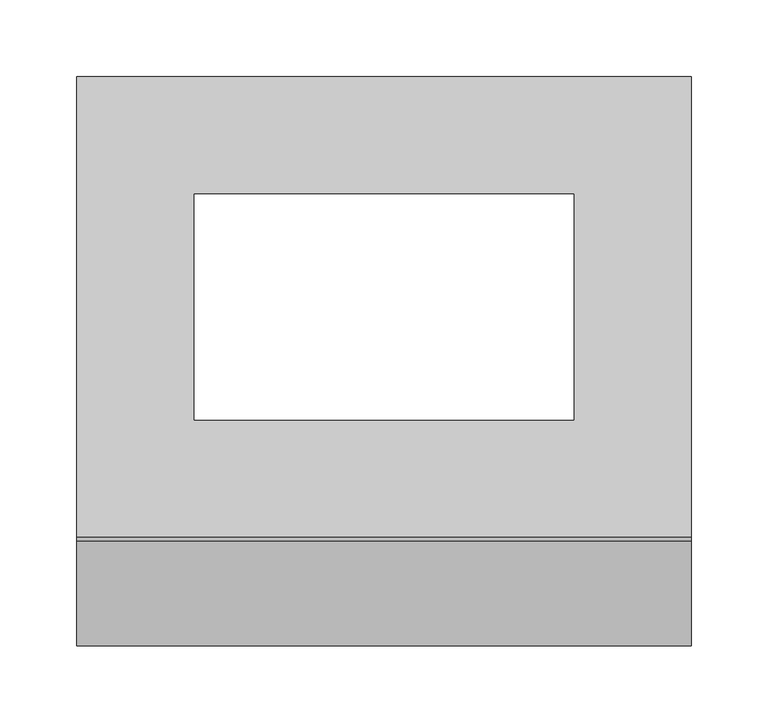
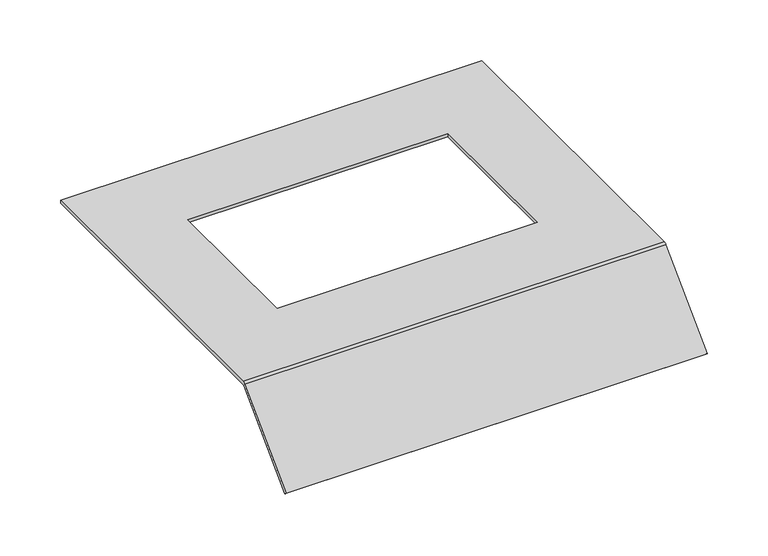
"""IFC4 building model written with IfcOpenShell, lengths in millimetres: proxy geometry, Electrical_Installation_Hager_Covers-With-Installation-Opening-E04 : Electrical_Installation_Hager_Covers-With-Installation-Opening-E04."""

import ifcopenshell
import ifcopenshell.guid

model = None  # the IFC model being written
_history = None  # IfcOwnerHistory: only IFC2X3 demands one
_inside = {}  # id of a spatial element -> (the spatial element, [elements in it])
_under = {}  # id of a project, library or spatial element -> (it, [spatial elements below it])
_declared = {}  # id of a project -> (the project, [libraries it declares])
_typed = {}  # id of a type object -> (the type object, [elements of that type])
_made_of = {}  # id of a material, layer set ... -> (it, [elements and type objects made of it])


def new_model(schema):
    """Start an empty IFC model of exactly this schema.

    Asked for "IFC4X3", IfcOpenShell would pick the latest addendum, in which some entities
    have other attributes; the version numbers below select the first issue.
    IFC2X3 requires an IfcOwnerHistory on every rooted entity: one is made here for all.
    """
    global model, _history
    if schema == "IFC4X3":
        model = ifcopenshell.file(schema_version=(4, 3, 0, 0))
    else:
        model = ifcopenshell.file(schema=schema)
    _inside.clear()
    _under.clear()
    _declared.clear()
    _typed.clear()
    _made_of.clear()
    _history = None
    if model.schema == "IFC2X3":
        org = make("IfcOrganization", Name="unknown")
        user = make(
            "IfcPersonAndOrganization",
            ThePerson=make("IfcPerson", FamilyName="unknown"),
            TheOrganization=org,
        )
        app = make(
            "IfcApplication",
            ApplicationDeveloper=org,
            Version="unknown",
            ApplicationFullName="unknown",
            ApplicationIdentifier="unknown",
        )
        _history = make(
            "IfcOwnerHistory",
            OwningUser=user,
            OwningApplication=app,
            ChangeAction="ADDED",
            CreationDate=0,
        )
    return model


def make(cls, **values):
    """One entity of the class cls with the attributes given. An attribute that is None is left unset."""
    return model.create_entity(
        cls, **{name: value for name, value in values.items() if value is not None}
    )


def rooted(cls, **values):
    """An entity with a GlobalId (a new one), such as an element, a storey or a relation."""
    return make(cls, GlobalId=ifcopenshell.guid.new(), OwnerHistory=_history, **values)


def si_unit(unit_type, name, prefix=None):
    """IfcSIUnit, for example si_unit("LENGTHUNIT", "METRE", prefix="MILLI")."""
    return make("IfcSIUnit", UnitType=unit_type, Prefix=prefix, Name=name)


def assignment(units):
    """IfcUnitAssignment: the units of a project."""
    return None if units is None else make("IfcUnitAssignment", Units=units)


def point(xyz):
    """IfcCartesianPoint."""
    return None if xyz is None else make("IfcCartesianPoint", Coordinates=xyz)


def direction(xyz):
    """IfcDirection."""
    return None if xyz is None else make("IfcDirection", DirectionRatios=xyz)


def frame(location, z_axis=None, x_axis=None):
    """IfcAxis2Placement3D, a coordinate frame: its origin and axes. An axis left out is left unset."""
    return make(
        "IfcAxis2Placement3D",
        Location=point(location),
        Axis=direction(z_axis),
        RefDirection=direction(x_axis),
    )


def origin():
    """The frame at (0, 0, 0) with its axes left unset."""
    return frame((0.0, 0.0, 0.0))


def place(relative_to, where):
    """IfcLocalPlacement: puts the frame where relative to a parent placement (None: the world)."""
    return make(
        "IfcLocalPlacement", PlacementRelTo=relative_to, RelativePlacement=where
    )


def context(
    kind, dimensions, precision=None, world=None, true_north=None, identifier=None
):
    """IfcGeometricRepresentationContext, for example the 3D "Model" context."""
    return make(
        "IfcGeometricRepresentationContext",
        ContextIdentifier=identifier,
        ContextType=kind,
        CoordinateSpaceDimension=dimensions,
        Precision=precision,
        WorldCoordinateSystem=world,
        TrueNorth=true_north,
    )


def project(units=None, contexts=None):
    """IfcProject with its units and contexts."""
    return rooted(
        "IfcProject",
        Name="project",
        RepresentationContexts=contexts,
        UnitsInContext=assignment(units),
    )


def spatial(cls, under=None, at=None, **own):
    """A site, building, storey or space (cls), placed at a placement, below another one or the project."""
    s = rooted(cls, ObjectPlacement=at, **own)
    if under is not None:
        _under.setdefault(under.id(), (under, []))[1].append(s)
    return s


def polyline(points):
    """IfcPolyline through the points."""
    return make("IfcPolyline", Points=[point(p) for p in points])


def circle_curve(where, radius):
    """IfcCircle in the frame where."""
    return make("IfcCircle", Position=where, Radius=radius)


def shape(context_of_items, identifier, shape_type, items):
    """IfcShapeRepresentation: the items that make up one representation, for example the "Body"."""
    return make(
        "IfcShapeRepresentation",
        ContextOfItems=context_of_items,
        RepresentationIdentifier=identifier,
        RepresentationType=shape_type,
        Items=items,
    )


def source(mapping_origin, context_of_items, identifier, shape_type, items):
    """IfcRepresentationMap: a shape defined once, which mapped items show again and again."""
    return make(
        "IfcRepresentationMap",
        MappingOrigin=mapping_origin,
        MappedRepresentation=shape(context_of_items, identifier, shape_type, items),
    )


def transform(
    local_origin,
    x_axis=None,
    y_axis=None,
    z_axis=None,
    scale=None,
    scale2=None,
    scale3=None,
    uniform=True,
):
    """IfcCartesianTransformationOperator3D, or its non-uniform kind. x_axis, y_axis, z_axis: its Axis1, 2, 3."""
    if uniform:
        return make(
            "IfcCartesianTransformationOperator3D",
            Axis1=direction(x_axis),
            Axis2=direction(y_axis),
            LocalOrigin=point(local_origin),
            Scale=scale,
            Axis3=direction(z_axis),
        )
    return make(
        "IfcCartesianTransformationOperator3DnonUniform",
        Axis1=direction(x_axis),
        Axis2=direction(y_axis),
        LocalOrigin=point(local_origin),
        Scale=scale,
        Axis3=direction(z_axis),
        Scale2=scale2,
        Scale3=scale3,
    )


def mapped(mapping_source, mapping_target):
    """IfcMappedItem: shows the shape of a source again, moved by a transform."""
    return make(
        "IfcMappedItem", MappingSource=mapping_source, MappingTarget=mapping_target
    )


def made_of(thing, what):
    """Note that an element or type object is made of a material, layer set ...; save() writes the relation."""
    if what is not None:
        _made_of.setdefault(what.id(), (what, []))[1].append(thing)
    return thing


def element(
    cls,
    number,
    at=None,
    inside=None,
    cuts=None,
    type_object=None,
    material=None,
    context=None,
    identifier="Body",
    shape_type=None,
    held_by="IfcProductDefinitionShape",
    body=None,
    shapes=None,
    **own,
):
    """One element of the class cls, such as IfcWall. Its Tag is "e" and its number.

    at: its placement. inside: the storey or other place that contains it. cuts: it is an
    opening in that element (IfcRelVoidsElement). A single representation is given by context,
    identifier, shape_type and body (its items); several are given by shapes. held_by: the class
    of the entity that holds the representations. save() writes the other relations.
    """
    e = rooted(cls, Tag="e%d" % number, ObjectPlacement=at, **own)
    if body is not None:
        shapes = [shape(context, identifier, shape_type, body)]
    if shapes is not None:
        e.Representation = make(held_by, Representations=shapes)
    if inside is not None:
        _inside.setdefault(inside.id(), (inside, []))[1].append(e)
    if cuts is not None:
        rooted(
            "IfcRelVoidsElement", RelatingBuildingElement=cuts, RelatedOpeningElement=e
        )
    if type_object is not None:
        _typed.setdefault(type_object.id(), (type_object, []))[1].append(e)
    return made_of(e, material)


def aggregate(whole, parts):
    """IfcRelAggregates: a whole, such as a stair, and the parts it consists of."""
    return rooted("IfcRelAggregates", RelatingObject=whole, RelatedObjects=parts)


def save(model, path):
    """Write the relations noted so far, then the file.

    IfcRelAggregates (storeys below a building ...), IfcRelContainedInSpatialStructure (elements
    in a storey), IfcRelDefinesByType, IfcRelAssociatesMaterial and IfcRelDeclares: one each for
    every whole, place, type object, material and project.
    """
    for whole, parts in _under.values():
        aggregate(whole, parts)
    for where, things in _inside.values():
        rooted(
            "IfcRelContainedInSpatialStructure",
            RelatedElements=things,
            RelatingStructure=where,
        )
    for kind, things in _typed.values():
        rooted("IfcRelDefinesByType", RelatedObjects=things, RelatingType=kind)
    for what, things in _made_of.values():
        rooted("IfcRelAssociatesMaterial", RelatedObjects=things, RelatingMaterial=what)
    for by, libraries in _declared.values():
        rooted("IfcRelDeclares", RelatingContext=by, RelatedDefinitions=libraries)
    model.write(path)


def plane_surface(at):
    """IfcPlane: the flat surface through the origin of the frame at, square to its z axis."""
    return make("IfcPlane", Position=at)


def cylinder_surface(at, radius):
    """IfcCylindricalSurface: all points at the distance radius from the z axis of the frame at."""
    return make("IfcCylindricalSurface", Position=at, Radius=radius)


def revolved_surface(curve, axis_point, axis_direction):
    """IfcSurfaceOfRevolution: the curve turned about the line through axis_point along axis_direction."""
    return make(
        "IfcSurfaceOfRevolution",
        SweptCurve=make("IfcArbitraryOpenProfileDef", ProfileType="CURVE", Curve=curve),
        AxisPosition=make("IfcAxis1Placement", Location=point(axis_point), Axis=direction(axis_direction)),
    )


def advanced_brep(points, edges, surfaces, faces):
    """IfcAdvancedBrep: a solid bounded by faces that lie on surfaces and meet in shared edges.

    An edge is (start, end): straight between two places in points (the first is 0);
    or (start, end, curve); or (start, end, curve, False) where it runs against its curve.
    A face is (place in surfaces, loops), or (place, loops, False) where it looks against
    its surface's normal. A loop lists edges by number (the first is 1), with a minus sign
    where the edge is run from its end to its start. The first loop is the outer one.
    """
    corners = [point(p) for p in points]
    vertices = [make("IfcVertexPoint", VertexGeometry=c) for c in corners]
    made = []
    for start, end, *more in edges:
        made.append(
            make(
                "IfcEdgeCurve",
                EdgeStart=vertices[start],
                EdgeEnd=vertices[end],
                EdgeGeometry=more[0] if more else make("IfcPolyline", Points=[corners[start], corners[end]]),
                SameSense=more[1] if len(more) > 1 else True,
            )
        )
    hull = []
    for where, loops, *sense in faces:
        bounds = []
        for j, loop in enumerate(loops):
            ring = [make("IfcOrientedEdge", EdgeElement=made[abs(k) - 1], Orientation=k > 0) for k in loop]
            bounds.append(
                make(
                    "IfcFaceOuterBound" if j == 0 else "IfcFaceBound",
                    Bound=make("IfcEdgeLoop", EdgeList=ring),
                    Orientation=True,
                )
            )
        hull.append(make("IfcAdvancedFace", Bounds=bounds, FaceSurface=surfaces[where], SameSense=sense[0] if sense else True))
    return make("IfcAdvancedBrep", Outer=make("IfcClosedShell", CfsFaces=hull))


def electrical_fixtures_f33839d7(model_context):
    return source(origin(), model_context, "Body", "AdvancedBrep", [
        advanced_brep(
        [(0.0, 150.0, 40.5), (0.0, 150.0, 37.5), (0.0, -149.8229541, 37.5), (0.0, -150.8322972, 37.0819164), (0.0, -218.712807, -30.7985934), (0.0, -220.8341273, -28.6772731), (0.0, -152.8206472, 39.336207), (0.0, -150.0110025, 40.5), (400.0, 150.0, 40.5), (400.0, -150.0110025, 40.5), (400.0, -152.8206472, 39.336207), (400.0, -220.8341273, -28.6772731), (400.0, -218.712807, -30.7985934), (400.0, -150.8322972, 37.0819164), (400.0, -149.8229541, 37.5), (400.0, 150.0, 37.5), (323.5, 73.5, 37.5), (76.5, 73.5, 37.5), (76.5, -73.5, 37.5), (323.5, -73.5, 37.5), (76.5, 73.5, 40.5), (323.5, 73.5, 40.5), (323.5, -73.5, 40.5), (76.5, -73.5, 40.5)],
        [
            (0, 1),
            (1, 2),
            (2, 3, circle_curve(frame((0.0, -149.8229541, 36.0725733), z_axis=(1.0, 0.0, 0.0), x_axis=(0.0, 1.0, 0.0)), 1.4274267)),
            (3, 4),
            (4, 5),
            (5, 6),
            (6, 7, circle_curve(frame((0.0, -150.0110025, 36.5265623), z_axis=(-1.0, 0.0, 0.0), x_axis=(0.0, 1.0, 0.0)), 3.9734377)),
            (7, 0),
            (8, 9),
            (9, 10, circle_curve(frame((400.0, -150.0110025, 36.5265623), z_axis=(1.0, 0.0, 0.0), x_axis=(0.0, 1.0, 0.0)), 3.9734377)),
            (10, 11),
            (11, 12),
            (12, 13),
            (13, 14, circle_curve(frame((400.0, -149.8229541, 36.0725733), z_axis=(-1.0, 0.0, 0.0), x_axis=(0.0, 1.0, 0.0)), 1.4274267)),
            (14, 15),
            (15, 8),
            (0, 8),
            (15, 1),
            (14, 2),
            (16, 17),
            (17, 18),
            (18, 19),
            (19, 16),
            (13, 3),
            (12, 4),
            (11, 5),
            (10, 6),
            (9, 7),
            (20, 21),
            (21, 22),
            (22, 23),
            (23, 20),
            (16, 21),
            (20, 17),
            (23, 18),
            (22, 19),
        ],
        [
            plane_surface(frame((0.0, 0.3269864, 15.0), z_axis=(-1.0, 0.0, 0.0), x_axis=(0.0, 0.0, 1.0))),
            plane_surface(frame((400.0, 0.3269864, 15.0), z_axis=(1.0, 0.0, 0.0), x_axis=(0.0, 0.0, 1.0))),
            plane_surface(frame((0.0, 150.0, 40.5), z_axis=(0.0, 1.0, 0.0), x_axis=(1.0, 0.0, 0.0))),
            plane_surface(frame((0.0, 150.0, 37.5), z_axis=(0.0, 0.0, -1.0), x_axis=(1.0, 0.0, 0.0))),
            revolved_surface(polyline([(400.0, -148.3955274, 36.0725733), (0.0, -148.3955274, 36.0725733)]), (0.0, -149.8229541, 36.0725733), (1.0, 0.0, 0.0)),
            plane_surface(frame((0.0, -150.8322972, 37.0819164), z_axis=(0.0, 0.7071067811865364, -0.7071067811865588), x_axis=(1.0, 0.0, 0.0))),
            plane_surface(frame((0.0, -218.712807, -30.7985934), z_axis=(0.0, -0.7071067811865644, -0.7071067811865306), x_axis=(1.0, 0.0, 0.0))),
            plane_surface(frame((0.0, -220.8341273, -28.6772731), z_axis=(0.0, -0.7071067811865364, 0.7071067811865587), x_axis=(1.0, 0.0, 0.0))),
            cylinder_surface(frame((0.0, -150.0110025, 36.5265623), z_axis=(-1.0, 0.0, 0.0), x_axis=(0.0, 1.0, 0.0)), 3.9734377),
            plane_surface(frame((0.0, -150.0110025, 40.5), z_axis=(0.0, 0.0, 1.0), x_axis=(1.0, 0.0, 0.0))),
            plane_surface(frame((323.5, 73.5, 250.0), z_axis=(0.0, -1.0, 0.0), x_axis=(0.0, 0.0, -1.0))),
            plane_surface(frame((76.5, 73.5, 250.0), z_axis=(1.0, 0.0, 0.0), x_axis=(0.0, 0.0, -1.0))),
            plane_surface(frame((76.5, -73.5, 250.0), z_axis=(0.0, 1.0, 0.0), x_axis=(0.0, 0.0, -1.0))),
            plane_surface(frame((323.5, -73.5, 250.0), z_axis=(-1.0, 0.0, 0.0), x_axis=(0.0, 0.0, -1.0))),
        ],
        [
            (0, [[1, 2, 3, 4, 5, 6, 7, 8]]),
            (1, [[9, 10, 11, 12, 13, 14, 15, 16]]),
            (2, [[-1, 17, -16, 18]]),
            (3, [[-2, -18, -15, 19], [20, 21, 22, 23]]),
            (4, [[-3, -19, -14, 24]]),
            (5, [[-4, -24, -13, 25]]),
            (6, [[-5, -25, -12, 26]]),
            (7, [[-6, -26, -11, 27]]),
            (8, [[-7, -27, -10, 28]]),
            (9, [[-8, -28, -9, -17], [29, 30, 31, 32]]),
            (10, [[33, -29, 34, -20]]),
            (11, [[-34, -32, 35, -21]]),
            (12, [[-35, -31, 36, -22]]),
            (13, [[-33, -23, -36, -30]]),
        ],
    ),
    ])


if __name__ == "__main__":
    model = new_model("IFC4")
    model_context = context("Model", 3, world=origin())
    ifc_project = project(units=[si_unit("LENGTHUNIT", "METRE", prefix="MILLI")], contexts=[model_context])
    site = spatial("IfcSite", under=ifc_project)
    building = spatial("IfcBuilding", under=site)
    placement = place(None, origin())
    electrical_fixtures_shape = electrical_fixtures_f33839d7(model_context)
    element("IfcBuildingElementProxy", 1, Name="Electrical_Installation_Hager_Covers-With-Installation-Opening-E04 : Electrical_Installation_Hager_Covers-With-Installation-Opening-E04", ObjectType="Electrical_Installation_Hager_Covers-With-Installation-Opening-E04 : Electrical_Installation_Hager_Covers-With-Installation-Opening-E04", at=placement, inside=building, context=model_context, shape_type="MappedRepresentation", body=[
        mapped(electrical_fixtures_shape, transform((0.0, 0.0, 0.0), x_axis=(1.0, 0.0, 0.0), y_axis=(0.0, 1.0, 0.0), z_axis=(0.0, 0.0, 1.0))),
    ])
    save(model, "model.ifc")
